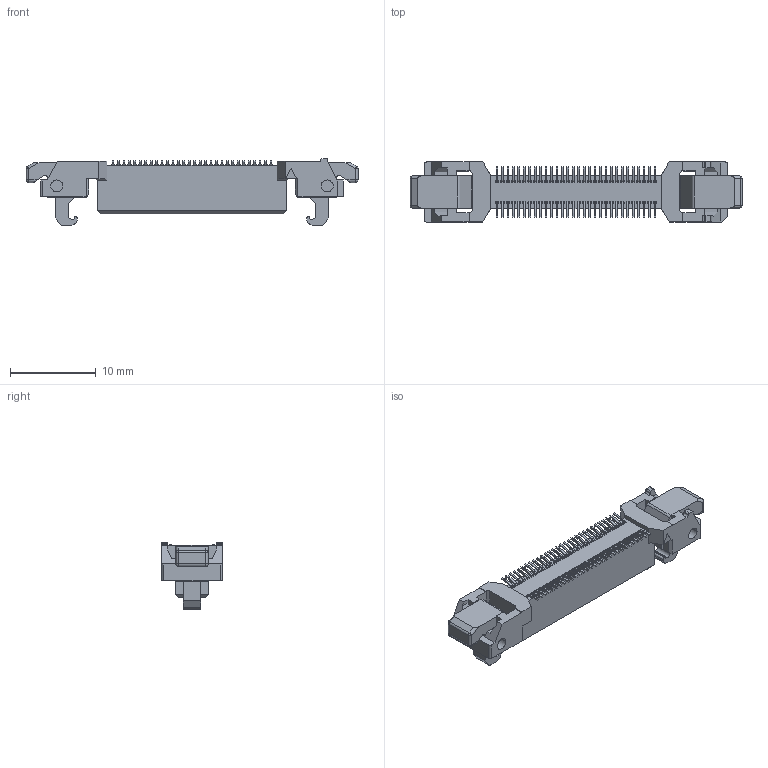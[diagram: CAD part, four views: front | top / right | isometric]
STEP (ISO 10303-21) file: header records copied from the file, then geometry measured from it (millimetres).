
FILE_DESCRIPTION(('Creo Elements/Direct Modeling STEP Export'),'2;1');
FILE_NAME('P3A622_8602E-060S-P.stp','2022-02-16T15:33:57',(''),(''),'Creo Elements/Direct Modeling STEP processor for AP214 (Solid Model)','Creo Elements/Direct Modeling 20.4A 18-Oct-2021 (C) Parametric Technology GmbH','');
FILE_SCHEMA(('AUTOMOTIVE_DESIGN { 1 0 10303 214 1 1 1 1 }'));
Products named in the file (2): P3A622_8602E-060S-P
Assembly tree (1 placements, depth 2):
  P3A622_8602E-060S-P
    P3A622_8602E-060S-P
Bounding box: 38.7 x 7 x 7.8 mm (x, y, z)
Volume: 639.9 mm3; surface area: 1313.6 mm2
Topology: 1 solids, 1 shells, 2706 faces, 7503 edges, 4974 vertices
Faces by surface type: plane 2227, cylinder 471, sphere 8
Entity records: 85393 total; most frequent: CARTESIAN_POINT 15178, ORIENTED_EDGE 14990, DIRECTION 13834, EDGE_CURVE 7495, VECTOR 6550, LINE 6550, VERTEX_POINT 4974, AXIS2_PLACEMENT_3D 3642
